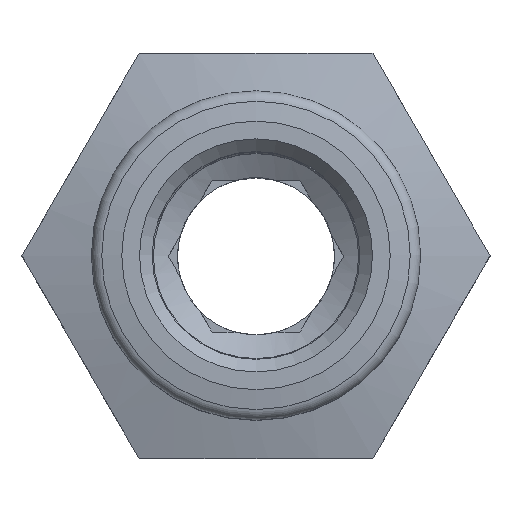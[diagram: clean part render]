
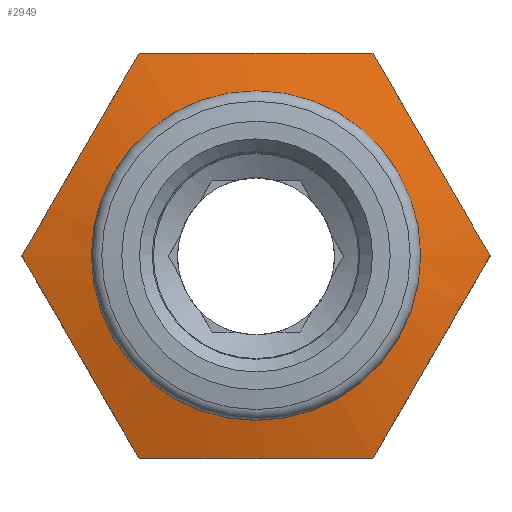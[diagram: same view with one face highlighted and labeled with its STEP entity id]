
A CAD part, top view. The second image highlights one B-rep face of the part: STEP entity #2949.
In plain terms, the highlighted conical face has half-angle 75 degrees and reference radius 11.574 mm.
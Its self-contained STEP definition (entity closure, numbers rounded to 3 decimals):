
#854=HYPERBOLA('',#2822,2.144,8.);
#855=HYPERBOLA('',#2823,2.144,8.);
#856=HYPERBOLA('',#2824,2.144,8.);
#857=HYPERBOLA('',#2825,2.144,8.);
#858=HYPERBOLA('',#2826,2.144,8.);
#859=HYPERBOLA('',#2827,2.144,8.);
#911=ORIENTED_EDGE('',*,*,#1276,.F.);
#912=ORIENTED_EDGE('',*,*,#1277,.F.);
#913=ORIENTED_EDGE('',*,*,#1278,.F.);
#914=ORIENTED_EDGE('',*,*,#1279,.F.);
#915=ORIENTED_EDGE('',*,*,#1280,.F.);
#916=ORIENTED_EDGE('',*,*,#1281,.F.);
#917=ORIENTED_EDGE('',*,*,#1282,.F.);
#1124=CIRCLE('',#2820,6.5);
#1188=VERTEX_POINT('',#2569);
#1189=VERTEX_POINT('',#2572);
#1190=VERTEX_POINT('',#2573);
#1191=VERTEX_POINT('',#2575);
#1192=VERTEX_POINT('',#2577);
#1193=VERTEX_POINT('',#2579);
#1194=VERTEX_POINT('',#2581);
#1276=EDGE_CURVE('',#1188,#1188,#1124,.T.);
#1277=EDGE_CURVE('',#1189,#1190,#854,.T.);
#1278=EDGE_CURVE('',#1191,#1189,#855,.T.);
#1279=EDGE_CURVE('',#1192,#1191,#856,.T.);
#1280=EDGE_CURVE('',#1193,#1192,#857,.T.);
#1281=EDGE_CURVE('',#1194,#1193,#858,.T.);
#1282=EDGE_CURVE('',#1190,#1194,#859,.T.);
#1388=EDGE_LOOP('',(#911));
#1389=EDGE_LOOP('',(#912,#913,#914,#915,#916,#917));
#1490=FACE_BOUND('',#1388,.T.);
#1491=FACE_BOUND('',#1389,.T.);
#1575=CONICAL_SURFACE('',#2821,11.574,75.);
#2237=DIRECTION('',(0.,1.,0.));
#2238=DIRECTION('',(0.,0.,6.5));
#2239=DIRECTION('',(0.,-1.,0.));
#2240=DIRECTION('',(1.,0.,0.));
#2241=DIRECTION('',(0.866,0.,-0.5));
#2242=DIRECTION('',(0.,-1.,0.));
#2243=DIRECTION('',(0.,0.,-1.));
#2244=DIRECTION('',(0.,-1.,0.));
#2245=DIRECTION('',(-0.866,0.,-0.5));
#2246=DIRECTION('',(0.,-1.,0.));
#2247=DIRECTION('',(-0.866,0.,0.5));
#2248=DIRECTION('',(0.,-1.,0.));
#2249=DIRECTION('',(0.,0.,1.));
#2250=DIRECTION('',(0.,-1.,0.));
#2251=DIRECTION('',(0.866,0.,0.5));
#2252=DIRECTION('',(0.,-1.,0.));
#2569=CARTESIAN_POINT('',(6.925,19.557,6.5));
#2570=CARTESIAN_POINT('',(6.925,19.557,0.));
#2571=CARTESIAN_POINT('',(6.925,18.198,0.));
#2572=CARTESIAN_POINT('',(2.306,18.824,8.));
#2573=CARTESIAN_POINT('',(-2.313,18.824,0.));
#2574=CARTESIAN_POINT('',(-0.004,21.299,4.));
#2575=CARTESIAN_POINT('',(11.543,18.824,8.));
#2576=CARTESIAN_POINT('',(6.925,21.299,8.));
#2577=CARTESIAN_POINT('',(16.162,18.824,0.));
#2578=CARTESIAN_POINT('',(13.853,21.299,4.));
#2579=CARTESIAN_POINT('',(11.543,18.824,-8.));
#2580=CARTESIAN_POINT('',(13.853,21.299,-4.));
#2581=CARTESIAN_POINT('',(2.306,18.824,-8.));
#2582=CARTESIAN_POINT('',(6.925,21.299,-8.));
#2583=CARTESIAN_POINT('',(-0.004,21.299,-4.));
#2820=AXIS2_PLACEMENT_3D('',#2570,#2237,#2238);
#2821=AXIS2_PLACEMENT_3D('',#2571,#2239,#2240);
#2822=AXIS2_PLACEMENT_3D('',#2574,#2241,#2242);
#2823=AXIS2_PLACEMENT_3D('',#2576,#2243,#2244);
#2824=AXIS2_PLACEMENT_3D('',#2578,#2245,#2246);
#2825=AXIS2_PLACEMENT_3D('',#2580,#2247,#2248);
#2826=AXIS2_PLACEMENT_3D('',#2582,#2249,#2250);
#2827=AXIS2_PLACEMENT_3D('',#2583,#2251,#2252);
#2949=ADVANCED_FACE('',(#1490,#1491),#1575,.T.);
